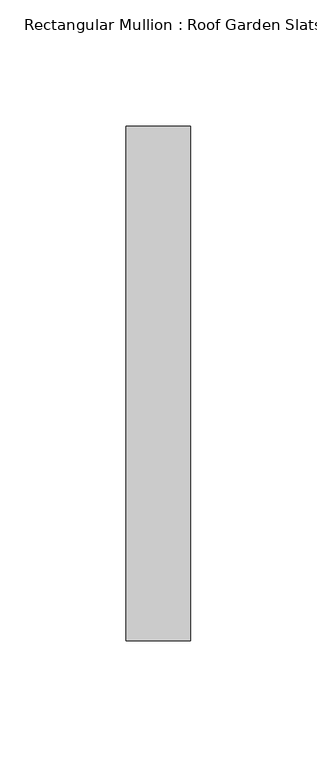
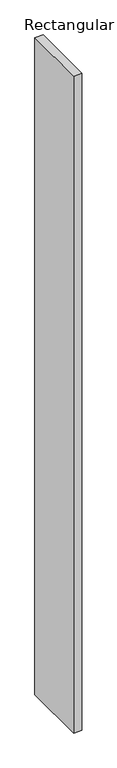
"""IFC4 building model written with IfcOpenShell, lengths in millimetres: member geometry, Rectangular Mullion : Roof Garden Slats."""

from ifc_helpers import new_model, si_unit, frame, origin, place, context, project, spatial, polyline, outline, extrude, source, transform, mapped, element, save


def rectangular_mullion_roof_garden_slats_16865f11(model_context):
    return source(origin(), model_context, "Body", "SweptSolid", [
        extrude(outline(polyline([(12.7, 139.7), (12.7, -63.5), (-12.7, -63.5), (-12.7, 139.7), (12.7, 139.7)])), frame((0.0, 0.0, -2110.6672043), z_axis=(0.0, 0.0, 1.0), x_axis=(1.0, 0.0, 0.0)), (0.0, 0.0, 1.0), 2110.6672043),
    ])


if __name__ == "__main__":
    model = new_model("IFC4")
    model_context = context("Model", 3, world=origin())
    ifc_project = project(units=[si_unit("LENGTHUNIT", "METRE", prefix="MILLI")], contexts=[model_context])
    site = spatial("IfcSite", under=ifc_project)
    building = spatial("IfcBuilding", under=site)
    placement = place(None, origin())
    rectangular_mullion_roof_garden_slats_shape = rectangular_mullion_roof_garden_slats_16865f11(model_context)
    element("IfcMember", 1, ObjectType="Rectangular Mullion : Roof Garden Slats", at=placement, inside=building, context=model_context, shape_type="MappedRepresentation", body=[
        mapped(rectangular_mullion_roof_garden_slats_shape, transform((0.0, 0.0, 0.0), x_axis=(1.0, 0.0, 0.0), y_axis=(0.0, 1.0, 0.0), z_axis=(0.0, 0.0, 1.0))),
    ])
    save(model, "model.ifc")
